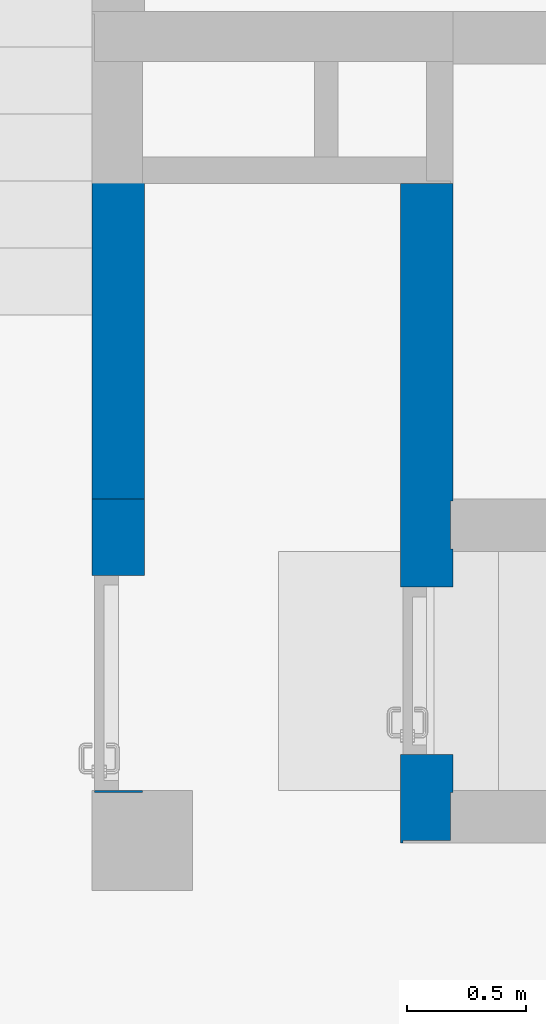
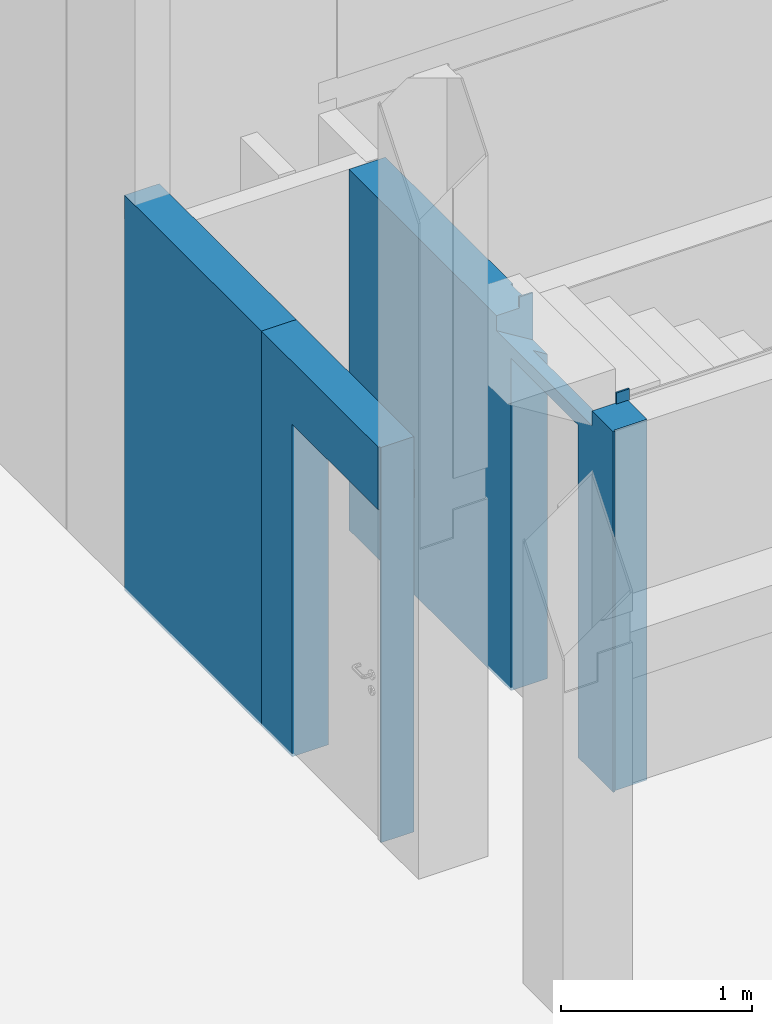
# One storey, part 178 of 390: 3 walls.
"""IFC2X3 building model written with IfcOpenShell, lengths in millimetres."""

import ifcopenshell
import ifcopenshell.guid

model = None  # the IFC model being written
_history = None  # IfcOwnerHistory: only IFC2X3 demands one
_inside = {}  # id of a spatial element -> (the spatial element, [elements in it])
_under = {}  # id of a project, library or spatial element -> (it, [spatial elements below it])
_declared = {}  # id of a project -> (the project, [libraries it declares])
_typed = {}  # id of a type object -> (the type object, [elements of that type])
_made_of = {}  # id of a material, layer set ... -> (it, [elements and type objects made of it])


def new_model(schema):
    """Start an empty IFC model of exactly this schema.

    Asked for "IFC4X3", IfcOpenShell would pick the latest addendum, in which some entities
    have other attributes; the version numbers below select the first issue.
    IFC2X3 requires an IfcOwnerHistory on every rooted entity: one is made here for all.
    """
    global model, _history
    if schema == "IFC4X3":
        model = ifcopenshell.file(schema_version=(4, 3, 0, 0))
    else:
        model = ifcopenshell.file(schema=schema)
    _inside.clear()
    _under.clear()
    _declared.clear()
    _typed.clear()
    _made_of.clear()
    _history = None
    if model.schema == "IFC2X3":
        org = make("IfcOrganization", Name="unknown")
        user = make(
            "IfcPersonAndOrganization",
            ThePerson=make("IfcPerson", FamilyName="unknown"),
            TheOrganization=org,
        )
        app = make(
            "IfcApplication",
            ApplicationDeveloper=org,
            Version="unknown",
            ApplicationFullName="unknown",
            ApplicationIdentifier="unknown",
        )
        _history = make(
            "IfcOwnerHistory",
            OwningUser=user,
            OwningApplication=app,
            ChangeAction="ADDED",
            CreationDate=0,
        )
    return model


def make(cls, **values):
    """One entity of the class cls with the attributes given. An attribute that is None is left unset."""
    return model.create_entity(
        cls, **{name: value for name, value in values.items() if value is not None}
    )


def entity(cls, *values):
    """Any entity or typed value of the class cls, its attributes in the order of the schema. None: left unset."""
    e = model.create_entity(cls)
    for i, value in enumerate(values):
        if value is not None:
            e[i] = value
    return e


def rooted(cls, **values):
    """An entity with a GlobalId (a new one), such as an element, a storey or a relation."""
    return make(cls, GlobalId=ifcopenshell.guid.new(), OwnerHistory=_history, **values)


def si_unit(unit_type, name, prefix=None):
    """IfcSIUnit, for example si_unit("LENGTHUNIT", "METRE", prefix="MILLI")."""
    return make("IfcSIUnit", UnitType=unit_type, Prefix=prefix, Name=name)


def converted_unit(unit_type, name, factor, base, dimensions=None, offset=None):
    """IfcConversionBasedUnit, such as the inch: factor (a typed value) times the base unit."""
    return make(
        "IfcConversionBasedUnit"
        if offset is None
        else "IfcConversionBasedUnitWithOffset",
        ConversionOffset=offset,
        Dimensions=None
        if dimensions is None
        else entity("IfcDimensionalExponents", *dimensions),
        UnitType=unit_type,
        Name=name,
        ConversionFactor=make(
            "IfcMeasureWithUnit", ValueComponent=factor, UnitComponent=base
        ),
    )


def derived_unit(unit_type, elements):
    """IfcDerivedUnit: a product of units, each with its exponent."""
    return make(
        "IfcDerivedUnit",
        Elements=[
            make("IfcDerivedUnitElement", Unit=unit, Exponent=power)
            for unit, power in elements
        ],
        UnitType=unit_type,
    )


def money_unit(currency):
    """IfcMonetaryUnit."""
    return make("IfcMonetaryUnit", Currency=currency)


def assignment(units):
    """IfcUnitAssignment: the units of a project."""
    return None if units is None else make("IfcUnitAssignment", Units=units)


def point(xyz):
    """IfcCartesianPoint."""
    return None if xyz is None else make("IfcCartesianPoint", Coordinates=xyz)


def direction(xyz):
    """IfcDirection."""
    return None if xyz is None else make("IfcDirection", DirectionRatios=xyz)


def frame(location, z_axis=None, x_axis=None):
    """IfcAxis2Placement3D, a coordinate frame: its origin and axes. An axis left out is left unset."""
    return make(
        "IfcAxis2Placement3D",
        Location=point(location),
        Axis=direction(z_axis),
        RefDirection=direction(x_axis),
    )


def origin_with_axes():
    """The frame at (0, 0, 0) with the z axis (0, 0, 1) and the x axis (1, 0, 0) written out."""
    return frame((0.0, 0.0, 0.0), z_axis=(0.0, 0.0, 1.0), x_axis=(1.0, 0.0, 0.0))


def place(relative_to, where):
    """IfcLocalPlacement: puts the frame where relative to a parent placement (None: the world)."""
    return make(
        "IfcLocalPlacement", PlacementRelTo=relative_to, RelativePlacement=where
    )


def context(
    kind, dimensions, precision=None, world=None, true_north=None, identifier=None
):
    """IfcGeometricRepresentationContext, for example the 3D "Model" context."""
    return make(
        "IfcGeometricRepresentationContext",
        ContextIdentifier=identifier,
        ContextType=kind,
        CoordinateSpaceDimension=dimensions,
        Precision=precision,
        WorldCoordinateSystem=world,
        TrueNorth=true_north,
    )


def subcontext(parent, identifier, kind, view, scale=None):
    """IfcGeometricRepresentationSubContext, for example "Body" below "Model"."""
    return make(
        "IfcGeometricRepresentationSubContext",
        ContextIdentifier=identifier,
        ContextType=kind,
        ParentContext=parent,
        TargetScale=scale,
        TargetView=view,
    )


def project(units=None, contexts=None):
    """IfcProject with its units and contexts."""
    return rooted(
        "IfcProject",
        Name="project",
        RepresentationContexts=contexts,
        UnitsInContext=assignment(units),
    )


def spatial(cls, under=None, at=None, **own):
    """A site, building, storey or space (cls), placed at a placement, below another one or the project."""
    s = rooted(cls, ObjectPlacement=at, **own)
    if under is not None:
        _under.setdefault(under.id(), (under, []))[1].append(s)
    return s


def faces_of(points, faces, orient=None, outer=None):
    """IfcFace entities. A face is a list of loops; a loop is a list of indices into points, from 0.

    orient and outer hold one flag for each loop. By default every Orientation is true, the
    first loop of a face is its IfcFaceOuterBound and the others are IfcFaceBound.
    """
    made = []
    for i, loops in enumerate(faces):
        bounds = []
        for j, loop in enumerate(loops):
            is_outer = j == 0 if outer is None else outer[i][j]
            bounds.append(
                make(
                    "IfcFaceOuterBound" if is_outer else "IfcFaceBound",
                    Bound=make("IfcPolyLoop", Polygon=[points[k] for k in loop]),
                    Orientation=True if orient is None else orient[i][j],
                )
            )
        made.append(make("IfcFace", Bounds=bounds))
    return made


def faceted_brep(points, faces, orient=None, outer=None, voids=None):
    """IfcFacetedBrep: a solid bounded by flat faces; with voids (closed shells), ...WithVoids."""
    shared = [point(p) for p in points]
    hull = make("IfcClosedShell", CfsFaces=faces_of(shared, faces, orient, outer))
    if voids is None:
        return make("IfcFacetedBrep", Outer=hull)
    return make(
        "IfcFacetedBrepWithVoids",
        Outer=hull,
        Voids=[
            make(cls, CfsFaces=faces_of(shared, fs, o, b)) for cls, fs, o, b in voids
        ],
    )


def shape(context_of_items, identifier, shape_type, items):
    """IfcShapeRepresentation: the items that make up one representation, for example the "Body"."""
    return make(
        "IfcShapeRepresentation",
        ContextOfItems=context_of_items,
        RepresentationIdentifier=identifier,
        RepresentationType=shape_type,
        Items=items,
    )


def material(Name=None, Category=None):
    """IfcMaterial."""
    return make("IfcMaterial", Name=Name, Category=Category)


def material_list(materials):
    """IfcMaterialList."""
    return make("IfcMaterialList", Materials=materials)


def made_of(thing, what):
    """Note that an element or type object is made of a material, layer set ...; save() writes the relation."""
    if what is not None:
        _made_of.setdefault(what.id(), (what, []))[1].append(thing)
    return thing


def type_object(cls, material=None, **own):
    """A type object (cls), such as IfcWallType, which elements share."""
    return made_of(rooted(cls, **own), material)


def element(
    cls,
    number,
    at=None,
    inside=None,
    cuts=None,
    type_object=None,
    material=None,
    context=None,
    identifier="Body",
    shape_type=None,
    held_by="IfcProductDefinitionShape",
    body=None,
    shapes=None,
    **own,
):
    """One element of the class cls, such as IfcWall. Its Tag is "e" and its number.

    at: its placement. inside: the storey or other place that contains it. cuts: it is an
    opening in that element (IfcRelVoidsElement). A single representation is given by context,
    identifier, shape_type and body (its items); several are given by shapes. held_by: the class
    of the entity that holds the representations. save() writes the other relations.
    """
    e = rooted(cls, Tag="e%d" % number, ObjectPlacement=at, **own)
    if body is not None:
        shapes = [shape(context, identifier, shape_type, body)]
    if shapes is not None:
        e.Representation = make(held_by, Representations=shapes)
    if inside is not None:
        _inside.setdefault(inside.id(), (inside, []))[1].append(e)
    if cuts is not None:
        rooted(
            "IfcRelVoidsElement", RelatingBuildingElement=cuts, RelatedOpeningElement=e
        )
    if type_object is not None:
        _typed.setdefault(type_object.id(), (type_object, []))[1].append(e)
    return made_of(e, material)


def aggregate(whole, parts):
    """IfcRelAggregates: a whole, such as a stair, and the parts it consists of."""
    return rooted("IfcRelAggregates", RelatingObject=whole, RelatedObjects=parts)


def save(model, path):
    """Write the relations noted so far, then the file.

    IfcRelAggregates (storeys below a building ...), IfcRelContainedInSpatialStructure (elements
    in a storey), IfcRelDefinesByType, IfcRelAssociatesMaterial and IfcRelDeclares: one each for
    every whole, place, type object, material and project.
    """
    for whole, parts in _under.values():
        aggregate(whole, parts)
    for where, things in _inside.values():
        rooted(
            "IfcRelContainedInSpatialStructure",
            RelatedElements=things,
            RelatingStructure=where,
        )
    for kind, things in _typed.values():
        rooted("IfcRelDefinesByType", RelatedObjects=things, RelatingType=kind)
    for what, things in _made_of.values():
        rooted("IfcRelAssociatesMaterial", RelatedObjects=things, RelatingMaterial=what)
    for by, libraries in _declared.values():
        rooted("IfcRelDeclares", RelatingContext=by, RelatedDefinitions=libraries)
    model.write(path)


model = new_model("IFC2X3")

# Units and contexts
model_context = context("Model", 3, precision=1e-05, world=origin_with_axes(), true_north=direction((0.0, 1.0)))
body_context = subcontext(model_context, "Body", "Model", "MODEL_VIEW")
ifc_project = project(units=[si_unit("LENGTHUNIT", "METRE", prefix="MILLI"), si_unit("AREAUNIT", "SQUARE_METRE"), si_unit("VOLUMEUNIT", "CUBIC_METRE"), converted_unit("PLANEANGLEUNIT", "DEGREE", entity("IfcPlaneAngleMeasure", 0.0174532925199), si_unit("PLANEANGLEUNIT", "RADIAN"), dimensions=[0, 0, 0, 0, 0, 0, 0]), si_unit("SOLIDANGLEUNIT", "STERADIAN"), money_unit("EUR"), converted_unit("TIMEUNIT", "Year", entity("IfcTimeMeasure", 31556926.0), si_unit("TIMEUNIT", "SECOND"), dimensions=[0, 0, 1, 0, 0, 0, 0]), si_unit("MASSUNIT", "GRAM", prefix="KILO"), si_unit("THERMODYNAMICTEMPERATUREUNIT", "DEGREE_CELSIUS"), si_unit("LUMINOUSINTENSITYUNIT", "LUMEN"), si_unit("ENERGYUNIT", "JOULE", prefix="MEGA"), derived_unit("THERMALCONDUCTANCEUNIT", [(si_unit("POWERUNIT", "WATT"), 1), (si_unit("LENGTHUNIT", "METRE"), -1), (si_unit("THERMODYNAMICTEMPERATUREUNIT", "KELVIN"), -1)]), derived_unit("SPECIFICHEATCAPACITYUNIT", [(si_unit("ENERGYUNIT", "JOULE"), 1), (si_unit("MASSUNIT", "GRAM", prefix="KILO"), -1), (si_unit("THERMODYNAMICTEMPERATUREUNIT", "KELVIN"), -1)]), derived_unit("MASSDENSITYUNIT", [(si_unit("MASSUNIT", "GRAM", prefix="KILO"), 1), (si_unit("VOLUMEUNIT", "CUBIC_METRE"), -1)])], contexts=[model_context])

# Site, building, storey
site_placement = place(None, origin_with_axes())
site = spatial("IfcSite", under=ifc_project, at=site_placement, Name="Site", CompositionType="ELEMENT")
building_placement = place(site_placement, origin_with_axes())
building = spatial("IfcBuilding", under=site, at=building_placement, Name="Building", CompositionType="ELEMENT")
storey_placement = place(building_placement, origin_with_axes())
storey = spatial("IfcBuildingStorey", under=building, at=storey_placement, Name="1 korrus", CompositionType="ELEMENT", Elevation=0.0)

# Walls
ifc_material_1 = material(Name="Krohv - Lubjakivi")
ifc_material_2 = material(Name="Raudbetoon - Konstruktsioon")
ifc_material_list_1 = material_list([ifc_material_1, ifc_material_2, ifc_material_1])
wall_type = type_object("IfcWallType", Name="SS-10", PredefinedType="NOTDEFINED")
wall_1_placement = place(storey_placement, frame((132880.000001, 53789.9993884, -20.0), z_axis=(0.0, 0.0, 1.0), x_axis=(-2.33260414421e-09, 1.0, 0.0)))
element("IfcWall", 1, at=wall_1_placement, inside=storey, type_object=wall_type, material=ifc_material_list_1, Name="SS-10", context=body_context, shape_type="Brep", body=[
    faceted_brep([(1000.00000071, -10.0000023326, 2120.0), (1000.00000071, -10.0000023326, 20.0), (1000.00000022, -10.0000023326, 0.0), (1319.99999958, -10.000003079, 0.0), (1319.99999958, -10.000003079, 2520.00002772), (100.000624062, -10.0000002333, 2520.00002772), (100.000000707, -10.0000002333, 2120.0), (1000.00000073, 7.74926434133e-06, 2120.0), (1000.00000073, -2.33262653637e-06, 20.0), (1000.00000022, -2.33262653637e-06, 0.0), (1319.9999996, -3.07903746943e-06, 0.0), (1319.9999996, -3.07903746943e-06, 2520.00002772), (100.000624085, 9.8486054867e-06, 2520.00002772), (100.00000073, 9.8486054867e-06, 2120.0)], [[[0, 1, 2, 3, 4, 5, 6]], [[1, 0, 7, 8]], [[1, 8, 9, 2]], [[2, 9, 10, 3]], [[11, 4, 3, 10]], [[5, 4, 11, 12]], [[13, 6, 5, 12]], [[0, 6, 13, 7]], [[7, 13, 12, 11, 10, 9, 8]]]),
    faceted_brep([(100.000000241, -210.000000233, 20.0), (100.000000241, -210.000000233, 2120.0), (1000.00000024, -210.000002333, 2120.0), (1000.00000024, -210.000002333, 20.0), (1000.00000022, -210.000002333, 0.0), (1319.99999911, -210.000003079, 0.0), (1319.99999911, -210.000003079, 2520.00002772), (90.0006235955, -210.00000021, 2520.00002772), (90.0006235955, -210.00000021, 0.0), (100.000000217, -210.000000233, 0.0), (100.000000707, -10.0000002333, 20.0), (100.000000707, -10.0000002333, 2120.0), (1000.00000071, -10.0000023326, 2120.0), (1000.00000071, -10.0000023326, 20.0), (1000.00000022, -10.0000023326, 0.0), (1319.99999958, -10.000003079, 0.0), (1319.99999958, -10.000003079, 2520.00002772), (90.000624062, -9.99999012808, 2520.00002772), (90.000624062, -9.99999012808, 0.0), (100.000000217, -10.0000002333, 0.0)], [[[0, 1, 2, 3, 4, 5, 6, 7, 8, 9]], [[1, 0, 10, 11]], [[2, 1, 11, 12]], [[3, 2, 12, 13]], [[3, 13, 14, 4]], [[4, 14, 15, 5]], [[16, 6, 5, 15]], [[7, 6, 16, 17]], [[7, 17, 18, 8]], [[18, 19, 9, 8]], [[10, 0, 9, 19]], [[11, 10, 19, 18, 17, 16, 15, 14, 13, 12]]]),
    faceted_brep([(1000.00000022, -220.000002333, 2120.0), (1000.00000022, -220.000002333, 20.0), (1000.00000022, -220.000002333, 0.0), (1319.99999909, -220.000003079, 0.0), (1319.99999909, -220.000003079, 2300.0), (100.000623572, -220.000000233, 2300.0), (100.000000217, -220.000000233, 2120.0), (1000.00000024, -210.000002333, 2120.0), (1000.00000024, -210.000002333, 20.0), (1000.00000022, -210.000002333, 0.0), (1319.99999911, -210.000003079, 0.0), (1319.99999911, -209.999983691, 2300.0), (100.000623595, -209.999981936, 2300.0), (100.000000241, -209.99998338, 2120.0)], [[[0, 1, 2, 3, 4, 5, 6]], [[1, 0, 7, 8]], [[1, 8, 9, 2]], [[2, 9, 10, 3]], [[11, 4, 3, 10]], [[5, 4, 11, 12]], [[13, 6, 5, 12]], [[0, 6, 13, 7]], [[7, 13, 12, 11, 10, 9, 8]]]),
])
wall_2_placement = place(storey_placement, frame((132879.999998, 55109.999388, -20.0), z_axis=(0.0, 0.0, 1.0), x_axis=(-5.85924670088e-08, 1.0, 0.0)))
element("IfcWall", 2, at=wall_2_placement, inside=storey, type_object=wall_type, material=ifc_material_list_1, Name="SS-10", context=body_context, shape_type="Brep", body=[
    faceted_brep([(1429.99999941, -10.0000837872, 2520.00002772), (1430.0, -8.37872278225e-05, 2520.00002772), (0.0, 0.0, 2520.00002772), (-5.85920645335e-07, -9.99999999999, 2520.00002772), (1429.99999941, -10.0000837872, 0.0), (1430.0, -8.37872278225e-05, 0.0), (0.0, 0.0, 0.0), (-5.85920645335e-07, -9.99999999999, 0.0)], [[[0, 1, 2, 3]], [[0, 4, 5, 1]], [[1, 5, 6, 2]], [[3, 2, 6, 7]], [[4, 0, 3, 7]], [[5, 4, 7, 6]]]),
    faceted_brep([(-1.23044188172e-05, -210.0, 2520.00002772), (1429.9999877, -210.000083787, 2520.00002772), (1429.99999941, -10.0000837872, 2520.00002772), (-5.85920645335e-07, -9.99999999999, 2520.00002772), (-1.23044188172e-05, -210.0, 0.0), (1429.9999877, -210.000083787, 0.0), (1429.99999941, -10.0000837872, 0.0), (-5.85920645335e-07, -9.99999999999, 0.0)], [[[0, 1, 2, 3]], [[4, 5, 1, 0]], [[2, 1, 5, 6]], [[3, 2, 6, 7]], [[4, 0, 3, 7]], [[7, 6, 5, 4]]]),
    faceted_brep([(1430.00060571, -210.000066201, 2300.0), (1430.00060512, -220.000083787, 2300.0), (1429.99998711, -220.000083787, 0.0), (1429.9999877, -210.000083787, 0.0), (-1.28903394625e-05, -220.0, 2300.0), (-1.23044188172e-05, -209.999983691, 2300.0), (-1.28903394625e-05, -220.0, 0.0), (-1.23044188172e-05, -210.0, 0.0)], [[[0, 1, 2, 3]], [[4, 1, 0, 5]], [[1, 4, 6, 2]], [[7, 3, 2, 6]], [[5, 0, 3, 7]], [[4, 5, 7, 6]]]),
])
ifc_material_list_2 = material_list([ifc_material_1, ifc_material_1, ifc_material_1, ifc_material_2, ifc_material_1])
wall_3_placement = place(storey_placement, frame((134389.999971, 56430.0000053, -20.0), z_axis=(0.0, 0.0, 1.0), x_axis=(9.77052679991e-09, -1.0, 0.0)))
element("IfcWall", 3, at=wall_3_placement, inside=storey, type_object=wall_type, material=ifc_material_list_2, Name="SS-10", context=body_context, shape_type="Brep", body=[
    faceted_brep([(2390.0006182, -10.0000233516, 2075.08820157), (2390.00061829, -2.33515606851e-05, 2068.91536206), (2390.00061829, -2.33515606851e-05, 20.0), (2390.0006182, -10.0000233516, 20.0), (2540.00061676, -2.48171545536e-05, 2068.91536206), (2540.00061667, -10.0000248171, 2075.08820157), (2540.00061676, -2.48171545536e-05, 2370.0), (2550.00061705, -2.49148683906e-05, 2370.0), (2550.00061615, -2.49148683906e-05, 0.0), (2390.00061614, -2.33515606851e-05, 0.0), (2390.00061614, -10.0000233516, 0.0), (2550.00061605, -10.0000249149, 0.0), (2550.00061695, -10.0000249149, 2370.0), (2540.00061667, -10.0000248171, 2370.0)], [[[0, 1, 2, 3]], [[4, 1, 0, 5]], [[4, 6, 7, 8, 9, 2, 1]], [[10, 3, 2, 9]], [[5, 0, 3, 10, 11, 12, 13]], [[13, 6, 4, 5]], [[6, 13, 12, 7]], [[7, 12, 11, 8]], [[10, 9, 8, 11]]]),
    faceted_brep([(1540.00061667, -10.0000150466, 2370.0), (1540.00061676, -1.50466235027e-05, 2370.0), (1530.00061725, -1.49489096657e-05, 2370.0), (1530.00061715, -10.0000149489, 2370.0), (1540.00061676, -1.50466235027e-05, 2068.91536206), (1540.00061667, -10.0000150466, 2075.08820157), (1690.00061829, -1.65122173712e-05, 2068.91536206), (1690.00061829, -1.65122173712e-05, 20.0), (1690.00061614, -1.65122173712e-05, 0.0), (1530.00061676, -1.49489096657e-05, 0.0), (1530.00061667, -10.0000149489, 0.0), (1690.00061614, -10.0000165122, 0.0), (1690.0006182, -10.0000165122, 20.0), (1690.0006182, -10.0000165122, 2075.08820157)], [[[0, 1, 2, 3]], [[4, 1, 0, 5]], [[4, 6, 7, 8, 9, 2, 1]], [[3, 2, 9, 10]], [[5, 0, 3, 10, 11, 12, 13]], [[6, 4, 5, 13]], [[6, 13, 12, 7]], [[8, 7, 12, 11]], [[8, 11, 10, 9]]]),
    faceted_brep([(-9.77067315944e-08, -9.99999999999, 2300.0), (0.0, 0.0, 2300.0), (0.0, 0.0, 0.0), (-9.77067315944e-08, -9.99999999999, 0.0), (1330.00061676, -1.29948034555e-05, 2300.0), (1330.00061667, -10.0000129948, 2300.0), (1330.00061676, -1.29948034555e-05, 0.0), (1330.00061667, -10.0000129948, 0.0)], [[[0, 1, 2, 3]], [[4, 1, 0, 5]], [[1, 4, 6, 2]], [[2, 6, 7, 3]], [[5, 0, 3, 7]], [[4, 5, 7, 6]]]),
    faceted_brep([(1540.00061598, -79.9999752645, 2370.0), (1540.00061667, -10.0000150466, 2370.0), (1530.00061702, -10.0000149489, 2370.0), (1530.00061634, -79.9999750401, 2370.0), (1540.00061667, -10.0000150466, 2075.08820157), (1540.00061598, -79.9999752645, 2300.0), (1540.00061471, -210.000015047, 2300.0), (1540.00061471, -210.000015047, 2198.54499169), (1540.00061642, -34.9999880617, 2090.52028368), (1690.0006182, -10.0000165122, 2075.08820157), (1690.0006182, -10.0000165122, 20.0), (1690.00061614, -10.0000165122, 0.0), (-9.77067315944e-08, -9.99999999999, 0.0), (-9.77067315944e-08, -9.99999999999, 2300.0), (1530.00061756, -10.0000149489, 2300.0), (1530.00061635, -79.9999750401, 2300.0), (-2.05181294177e-06, -210.0, 2300.0), (-2.05181294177e-06, -210.0, 0.0), (1690.00061614, -210.000016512, 0.0), (1690.00061624, -210.000016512, 20.0), (1690.00061624, -210.000016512, 2120.0), (2390.00061624, -210.000023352, 2120.0), (2390.00061624, -210.000023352, 20.0), (2390.00061614, -210.000023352, 0.0), (2750.0006141, -210.000026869, 0.0), (2750.0006141, -210.000026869, 2300.0), (2540.00061471, -210.000024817, 2300.0), (2540.00061471, -210.000024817, 2198.54499169), (1690.00061748, -82.7571299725, 2120.0), (1690.00061808, -21.4999893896, 2082.18695026), (2540.00061642, -34.9999946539, 2090.52028171), (2390.00061808, -21.4999942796, 2082.18694905), (2390.00061748, -82.7571368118, 2120.0), (2390.0006182, -10.0000233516, 2075.08820157), (2390.0006182, -10.0000233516, 20.0), (2390.00061614, -10.0000233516, 0.0), (2750.00061605, -10.000026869, 0.0), (2750.00061605, -10.000026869, 2300.0), (2540.00061598, -79.9999977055, 2300.0), (2550.00061024, -10.0000249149, 2300.0), (2550.00060955, -79.9999979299, 2300.0), (2540.00061598, -79.9999977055, 2370.0), (2540.00061667, -10.0000248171, 2370.0), (2540.00061667, -10.0000248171, 2075.08820157), (2550.00061688, -10.0000249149, 2370.0), (2550.0006162, -79.9999979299, 2370.0), (2550.0006162, -79.9999979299, 2320.0)], [[[0, 1, 2, 3]], [[4, 1, 0, 5, 6, 7, 8]], [[4, 9, 10, 11, 12, 13, 14, 2, 1]], [[2, 14, 15, 3]], [[5, 0, 3, 15]], [[6, 5, 15, 14, 13, 16]], [[7, 6, 16, 17, 18, 19, 20, 21, 22, 23, 24, 25, 26, 27]], [[28, 29, 8, 7, 27, 30, 31, 32]], [[9, 4, 8, 29]], [[29, 28, 20, 19, 10, 9]], [[10, 19, 18, 11]], [[18, 17, 12, 11]], [[13, 12, 17, 16]], [[28, 32, 21, 20]], [[31, 33, 34, 22, 21, 32]], [[23, 22, 34, 35]], [[35, 36, 24, 23]], [[25, 24, 36, 37]], [[38, 26, 25, 37, 39, 40]], [[41, 42, 43, 30, 27, 26, 38]], [[43, 33, 31, 30]], [[43, 42, 44, 39, 37, 36, 35, 34, 33]], [[40, 39, 44, 45, 46]], [[41, 38, 40, 46, 45]], [[42, 41, 45, 44]]]),
    faceted_brep([(1540.00061461, -220.0, 2300.0), (1540.00061471, -210.000015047, 2300.0), (-2.05181294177e-06, -210.0, 2300.0), (-2.14951967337e-06, -220.0, 2300.0), (1530.00061499, -219.999999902, 2300.0), (1540.00061471, -210.000015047, 2198.54499169), (1540.00061461, -220.0, 2204.71782191), (2540.00061471, -210.000024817, 2198.54499169), (2540.00061471, -210.000024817, 2300.0), (2760.00061711, -210.000026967, 2300.0), (2760.00063079, -210.000026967, 0.0), (2390.00061614, -210.000023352, 0.0), (2390.00061624, -210.000023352, 20.0), (2390.00061624, -210.000023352, 2120.0), (1690.00061624, -210.000016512, 2120.0), (1690.00061624, -210.000016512, 20.0), (1690.00061614, -210.000016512, 0.0), (-2.05181294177e-06, -210.0, 0.0), (-2.14951967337e-06, -220.0, 0.0), (1690.00061614, -220.000016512, 0.0), (1690.00061614, -220.000016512, 20.0), (1690.00061614, -220.000001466, 2120.0), (2390.00061614, -220.000008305, 2120.0), (2390.00061614, -220.000023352, 20.0), (2390.00061614, -220.000023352, 0.0), (2760.00063069, -220.000026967, 0.0), (2760.00061702, -220.00001192, 2300.0), (2540.00061461, -220.000009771, 2300.0), (2540.00061461, -220.000009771, 2204.71782191)], [[[0, 1, 2, 3, 4]], [[5, 1, 0, 6]], [[7, 8, 9, 10, 11, 12, 13, 14, 15, 16, 17, 2, 1, 5]], [[3, 2, 17, 18]], [[6, 0, 4, 3, 18, 19, 20, 21, 22, 23, 24, 25, 26, 27, 28]], [[7, 5, 6, 28]], [[27, 8, 7, 28]], [[8, 27, 26, 9]], [[9, 26, 25, 10]], [[24, 11, 10, 25]], [[24, 23, 12, 11]], [[22, 13, 12, 23]], [[21, 14, 13, 22]], [[20, 15, 14, 21]], [[16, 15, 20, 19]], [[16, 19, 18, 17]]]),
])

save(model, "model.ifc")
